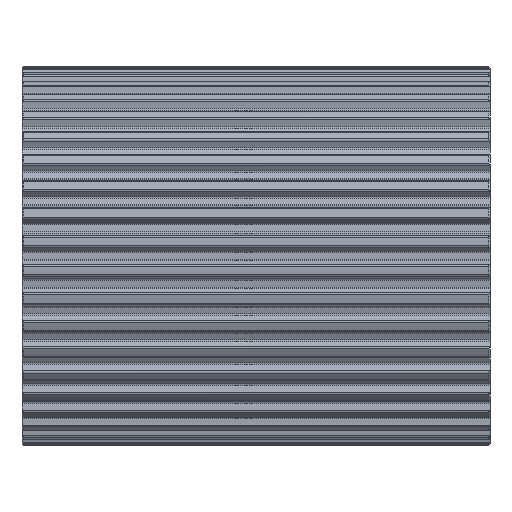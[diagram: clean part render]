
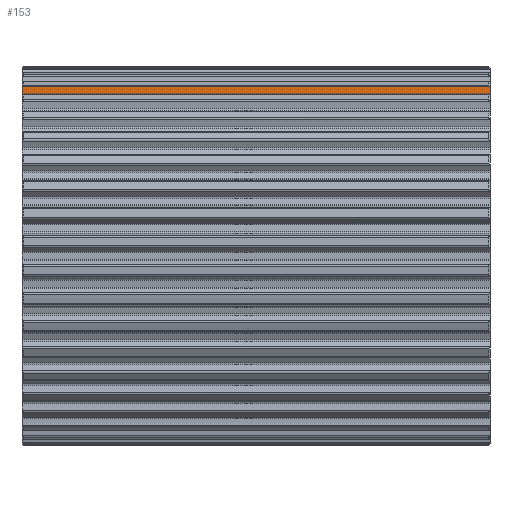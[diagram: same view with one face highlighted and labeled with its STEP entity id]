
A CAD part, front view. The second image highlights one B-rep face of the part: STEP entity #153.
In plain terms, the highlighted planar face has unit normal (0, -1, 0.015).
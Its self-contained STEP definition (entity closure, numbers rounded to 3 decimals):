
#153=ADVANCED_FACE('',(#658),#659,.T.);
#658=FACE_OUTER_BOUND('',#1512,.T.);
#659=PLANE('',#1513);
#1512=EDGE_LOOP('',(#2849,#2850,#2851,#2852,#2853,#2854));
#1513=AXIS2_PLACEMENT_3D('',#2855,#2856,#2857);
#2849=ORIENTED_EDGE('',*,*,#6205,.T.);
#2850=ORIENTED_EDGE('',*,*,#6354,.F.);
#2851=ORIENTED_EDGE('',*,*,#6355,.T.);
#2852=ORIENTED_EDGE('',*,*,#6356,.T.);
#2853=ORIENTED_EDGE('',*,*,#6357,.T.);
#2854=ORIENTED_EDGE('',*,*,#6352,.F.);
#2855=CARTESIAN_POINT('',(0.0,-28.204,56.613));
#2856=DIRECTION('',(0.,-1.,0.015));
#2857=DIRECTION('',(0.,-0.015,-1.));
#6205=EDGE_CURVE('',#7652,#7650,#7653,.T.);
#6352=EDGE_CURVE('',#7652,#7923,#7924,.T.);
#6354=EDGE_CURVE('',#7926,#7650,#7927,.T.);
#6355=EDGE_CURVE('',#7926,#7928,#7929,.T.);
#6356=EDGE_CURVE('',#7928,#7930,#7931,.T.);
#6357=EDGE_CURVE('',#7930,#7923,#7932,.T.);
#7650=VERTEX_POINT('',#10770);
#7652=VERTEX_POINT('',#10772);
#7653=(B_SPLINE_CURVE(2,(#10774,#10775,#10776),.UNSPECIFIED.,.F.,.F.)B_SPLINE_CURVE_WITH_KNOTS((3,3),(0.0,0.751),.UNSPECIFIED.)RATIONAL_B_SPLINE_CURVE((1.0,1.,1.0))BOUNDED_CURVE()REPRESENTATION_ITEM('')GEOMETRIC_REPRESENTATION_ITEM()CURVE());
#7923=VERTEX_POINT('',#11699);
#7924=LINE('',#11700,#11701);
#7926=VERTEX_POINT('',#11712);
#7927=LINE('',#11713,#11714);
#7928=VERTEX_POINT('',#11715);
#7929=LINE('',#11716,#11717);
#7930=VERTEX_POINT('',#11718);
#7931=LINE('',#11719,#11720);
#7932=(B_SPLINE_CURVE(2,(#11722,#11723,#11724),.UNSPECIFIED.,.F.,.F.)B_SPLINE_CURVE_WITH_KNOTS((3,3),(0.0,0.751),.UNSPECIFIED.)RATIONAL_B_SPLINE_CURVE((1.0,1.,1.0))BOUNDED_CURVE()REPRESENTATION_ITEM('')GEOMETRIC_REPRESENTATION_ITEM()CURVE());
#10770=CARTESIAN_POINT('',(0.0,-28.187,57.742));
#10772=CARTESIAN_POINT('',(0.071,-28.186,57.822));
#10774=CARTESIAN_POINT('',(0.5,-28.179,58.302));
#10775=CARTESIAN_POINT('',(0.249,-28.183,58.021));
#10776=CARTESIAN_POINT('',(0.0,-28.187,57.742));
#11699=CARTESIAN_POINT('',(159.929,-28.186,57.822));
#11700=CARTESIAN_POINT('',(0.0,-28.186,57.822));
#11701=VECTOR('',#15298,1.0);
#11712=CARTESIAN_POINT('',(0.0,-28.222,55.404));
#11713=CARTESIAN_POINT('',(0.0,-28.222,55.404));
#11714=VECTOR('',#15299,1.);
#11715=CARTESIAN_POINT('',(160.0,-28.222,55.404));
#11716=CARTESIAN_POINT('',(0.0,-28.222,55.404));
#11717=VECTOR('',#15300,1.0);
#11718=CARTESIAN_POINT('',(160.0,-28.187,57.742));
#11719=CARTESIAN_POINT('',(160.0,-28.222,55.404));
#11720=VECTOR('',#15301,1.);
#11722=CARTESIAN_POINT('',(160.0,-28.187,57.742));
#11723=CARTESIAN_POINT('',(159.751,-28.183,58.021));
#11724=CARTESIAN_POINT('',(159.5,-28.179,58.302));
#15298=DIRECTION('',(1.0,0.,0.));
#15299=DIRECTION('',(0.,0.015,1.));
#15300=DIRECTION('',(1.0,0.,0.));
#15301=DIRECTION('',(0.,0.015,1.));
